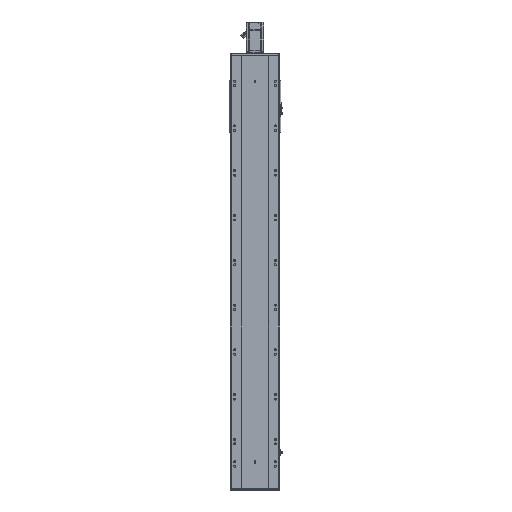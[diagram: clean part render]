
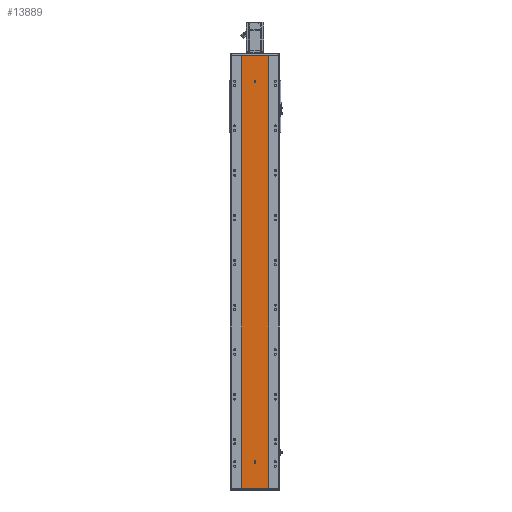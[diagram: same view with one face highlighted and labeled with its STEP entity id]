
A CAD part, front view. The second image highlights one B-rep face of the part: STEP entity #13889.
In plain terms, the highlighted planar face has unit normal (0, -1, 0).
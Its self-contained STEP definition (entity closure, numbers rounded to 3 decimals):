
#94 = LINE ( 'NONE', #14533, #76489 ) ;
#875 = VERTEX_POINT ( 'NONE', #14715 ) ;
#1546 = CARTESIAN_POINT ( 'NONE',  ( 60., 0., 1932. ) ) ;
#1961 = VECTOR ( 'NONE', #36840, 1000. ) ;
#3049 = DIRECTION ( 'NONE',  ( 0., 0., -1. ) ) ;
#3865 = LINE ( 'NONE', #25625, #1961 ) ;
#4921 = FACE_OUTER_BOUND ( 'NONE', #49487, .T. ) ;
#5222 = DIRECTION ( 'NONE',  ( 0., 1., 0. ) ) ;
#5241 = CARTESIAN_POINT ( 'NONE',  ( 0., 0., 116.5 ) ) ;
#6463 = CARTESIAN_POINT ( 'NONE',  ( 4., 0., 116.5 ) ) ;
#7232 = EDGE_CURVE ( 'NONE', #60706, #875, #3865, .T. ) ;
#9224 = CARTESIAN_POINT ( 'NONE',  ( -60., 0., 1932. ) ) ;
#9899 = ORIENTED_EDGE ( 'NONE', *, *, #13251, .F. ) ;
#11097 = CARTESIAN_POINT ( 'NONE',  ( 0., 0., 116.5 ) ) ;
#11334 = DIRECTION ( 'NONE',  ( 0., 0., -1. ) ) ;
#12112 = DIRECTION ( 'NONE',  ( 0., -1., 0. ) ) ;
#12261 = PLANE ( 'NONE',  #52234 ) ;
#12269 = EDGE_CURVE ( 'NONE', #13638, #67518, #46176, .T. ) ;
#12438 = ORIENTED_EDGE ( 'NONE', *, *, #39011, .F. ) ;
#12464 = DIRECTION ( 'NONE',  ( 0., 0., 1. ) ) ;
#12637 = AXIS2_PLACEMENT_3D ( 'NONE', #47747, #12112, #66206 ) ;
#13251 = EDGE_CURVE ( 'NONE', #23346, #60706, #76701, .T. ) ;
#13309 = FACE_BOUND ( 'NONE', #45785, .T. ) ;
#13638 = VERTEX_POINT ( 'NONE', #49807 ) ;
#13728 = CARTESIAN_POINT ( 'NONE',  ( 0., 0., 1818. ) ) ;
#13889 = ADVANCED_FACE ( 'NONE', ( #46852, #13309, #4921 ), #12261, .F. ) ;
#14291 = AXIS2_PLACEMENT_3D ( 'NONE', #40722, #47234, #11334 ) ;
#14351 = ORIENTED_EDGE ( 'NONE', *, *, #12269, .F. ) ;
#14533 = CARTESIAN_POINT ( 'NONE',  ( -60., 0., 0. ) ) ;
#14715 = CARTESIAN_POINT ( 'NONE',  ( -4., 0., 116.5 ) ) ;
#15475 = DIRECTION ( 'NONE',  ( 0., 0., -1. ) ) ;
#15500 = DIRECTION ( 'NONE',  ( 1., 0., 0. ) ) ;
#15571 = DIRECTION ( 'NONE',  ( 1., 0., 0. ) ) ;
#17191 = EDGE_LOOP ( 'NONE', ( #55623, #53897 ) ) ;
#17201 = DIRECTION ( 'NONE',  ( 0., 0., 1. ) ) ;
#18211 = ORIENTED_EDGE ( 'NONE', *, *, #54384, .T. ) ;
#18237 = CARTESIAN_POINT ( 'NONE',  ( -60., 0., 1932. ) ) ;
#20734 = CARTESIAN_POINT ( 'NONE',  ( 60., 0., 1932. ) ) ;
#23178 = AXIS2_PLACEMENT_3D ( 'NONE', #11097, #65435, #35770 ) ;
#23346 = VERTEX_POINT ( 'NONE', #72863 ) ;
#23625 = CARTESIAN_POINT ( 'NONE',  ( -4., 0., 119.5 ) ) ;
#25241 = VERTEX_POINT ( 'NONE', #41849 ) ;
#25430 = EDGE_CURVE ( 'NONE', #67518, #25241, #34141, .T. ) ;
#25625 = CARTESIAN_POINT ( 'NONE',  ( -4., 0., 116.5 ) ) ;
#25875 = VECTOR ( 'NONE', #12464, 1000. ) ;
#27473 = CARTESIAN_POINT ( 'NONE',  ( 0., 0., 1814. ) ) ;
#27493 = VECTOR ( 'NONE', #15500, 1000. ) ;
#29298 = VERTEX_POINT ( 'NONE', #41445 ) ;
#32426 = DIRECTION ( 'NONE',  ( 0., 0., -1. ) ) ;
#34141 = LINE ( 'NONE', #20734, #55545 ) ;
#34371 = ORIENTED_EDGE ( 'NONE', *, *, #7232, .F. ) ;
#35136 = LINE ( 'NONE', #6463, #25875 ) ;
#35770 = DIRECTION ( 'NONE',  ( 0., 0., -1. ) ) ;
#36281 = EDGE_CURVE ( 'NONE', #75585, #63901, #70989, .T. ) ;
#36840 = DIRECTION ( 'NONE',  ( 0., 0., -1. ) ) ;
#37541 = ORIENTED_EDGE ( 'NONE', *, *, #40167, .F. ) ;
#37925 = EDGE_CURVE ( 'NONE', #13638, #44169, #76440, .T. ) ;
#38279 = CIRCLE ( 'NONE', #76765, 4. ) ;
#39011 = EDGE_CURVE ( 'NONE', #74527, #29298, #51147, .T. ) ;
#40167 = EDGE_CURVE ( 'NONE', #29298, #23346, #35136, .T. ) ;
#40722 = CARTESIAN_POINT ( 'NONE',  ( 0., 0., 119.5 ) ) ;
#41445 = CARTESIAN_POINT ( 'NONE',  ( 4., 0., 116.5 ) ) ;
#41849 = CARTESIAN_POINT ( 'NONE',  ( 60., 0., 0. ) ) ;
#44169 = VERTEX_POINT ( 'NONE', #57224 ) ;
#45785 = EDGE_LOOP ( 'NONE', ( #37541, #12438, #52372, #34371, #9899 ) ) ;
#46176 = LINE ( 'NONE', #50628, #27493 ) ;
#46852 = FACE_BOUND ( 'NONE', #17191, .T. ) ;
#47234 = DIRECTION ( 'NONE',  ( 0., -1., 0. ) ) ;
#47747 = CARTESIAN_POINT ( 'NONE',  ( 0., 0., 1818. ) ) ;
#49487 = EDGE_LOOP ( 'NONE', ( #18211, #50304, #14351, #76980 ) ) ;
#49807 = CARTESIAN_POINT ( 'NONE',  ( -60., 0., 1932. ) ) ;
#50304 = ORIENTED_EDGE ( 'NONE', *, *, #25430, .F. ) ;
#50414 = AXIS2_PLACEMENT_3D ( 'NONE', #5241, #53625, #52613 ) ;
#50628 = CARTESIAN_POINT ( 'NONE',  ( -60., 0., 1932. ) ) ;
#51147 = CIRCLE ( 'NONE', #23178, 4. ) ;
#52234 = AXIS2_PLACEMENT_3D ( 'NONE', #18237, #5222, #17201 ) ;
#52372 = ORIENTED_EDGE ( 'NONE', *, *, #75831, .F. ) ;
#52613 = DIRECTION ( 'NONE',  ( 0., 0., -1. ) ) ;
#53111 = VECTOR ( 'NONE', #15475, 1000. ) ;
#53625 = DIRECTION ( 'NONE',  ( 0., -1., 0. ) ) ;
#53897 = ORIENTED_EDGE ( 'NONE', *, *, #36281, .F. ) ;
#54384 = EDGE_CURVE ( 'NONE', #44169, #25241, #94, .T. ) ;
#55545 = VECTOR ( 'NONE', #3049, 1000. ) ;
#55623 = ORIENTED_EDGE ( 'NONE', *, *, #63752, .F. ) ;
#57057 = CARTESIAN_POINT ( 'NONE',  ( 0., 0., 1822. ) ) ;
#57224 = CARTESIAN_POINT ( 'NONE',  ( -60., 0., 0. ) ) ;
#58078 = CARTESIAN_POINT ( 'NONE',  ( 0., 0., 112.5 ) ) ;
#60706 = VERTEX_POINT ( 'NONE', #23625 ) ;
#61309 = DIRECTION ( 'NONE',  ( 0., -1., 0. ) ) ;
#63752 = EDGE_CURVE ( 'NONE', #63901, #75585, #38279, .T. ) ;
#63901 = VERTEX_POINT ( 'NONE', #27473 ) ;
#65435 = DIRECTION ( 'NONE',  ( 0., -1., 0. ) ) ;
#65601 = CIRCLE ( 'NONE', #50414, 4. ) ;
#66206 = DIRECTION ( 'NONE',  ( 0., 0., -1. ) ) ;
#67518 = VERTEX_POINT ( 'NONE', #1546 ) ;
#70989 = CIRCLE ( 'NONE', #12637, 4. ) ;
#72863 = CARTESIAN_POINT ( 'NONE',  ( 4., 0., 119.5 ) ) ;
#74527 = VERTEX_POINT ( 'NONE', #58078 ) ;
#75585 = VERTEX_POINT ( 'NONE', #57057 ) ;
#75831 = EDGE_CURVE ( 'NONE', #875, #74527, #65601, .T. ) ;
#76440 = LINE ( 'NONE', #9224, #53111 ) ;
#76489 = VECTOR ( 'NONE', #15571, 1000. ) ;
#76701 = CIRCLE ( 'NONE', #14291, 4. ) ;
#76765 = AXIS2_PLACEMENT_3D ( 'NONE', #13728, #61309, #32426 ) ;
#76980 = ORIENTED_EDGE ( 'NONE', *, *, #37925, .T. ) ;
